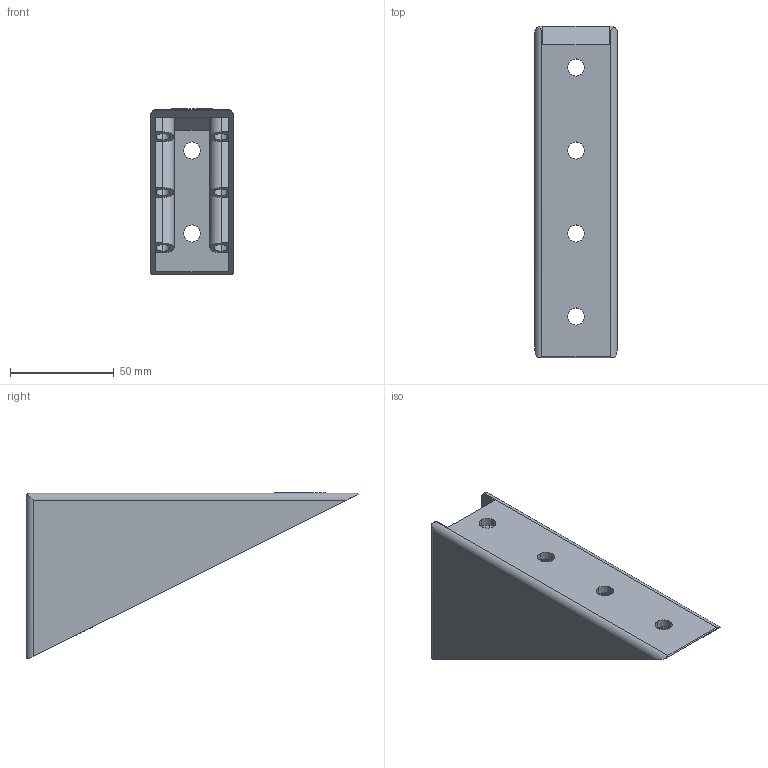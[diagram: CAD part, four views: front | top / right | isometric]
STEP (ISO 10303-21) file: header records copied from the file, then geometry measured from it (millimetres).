
FILE_DESCRIPTION (( 'STEP AP203' ), '1' );
FILE_NAME ('0108W16080.STEP', '2024-09-05T11:10:54', ( 'Windows-Benutzer' ), ( '' ), 'SwSTEP 2.0', 'SolidWorks 2024', '' );
FILE_SCHEMA (( 'CONFIG_CONTROL_DESIGN' ));
Length unit declared in the file: millimetre
Products named in the file (1): 0108W16080
Bounding box: 40 x 160 x 80 mm (x, y, z)
Volume: 77801.9 mm3; surface area: 45082.6 mm2
Topology: 1 solids, 1 shells, 77 faces, 204 edges, 136 vertices
Faces by surface type: plane 39, cylinder 38
Entity records: 2541 total; most frequent: CARTESIAN_POINT 518, ORIENTED_EDGE 408, DIRECTION 398, EDGE_CURVE 204, AXIS2_PLACEMENT_3D 138, VERTEX_POINT 136, LINE 122, VECTOR 122
